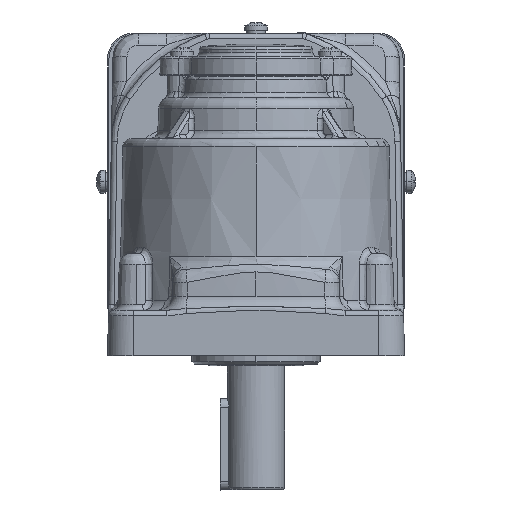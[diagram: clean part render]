
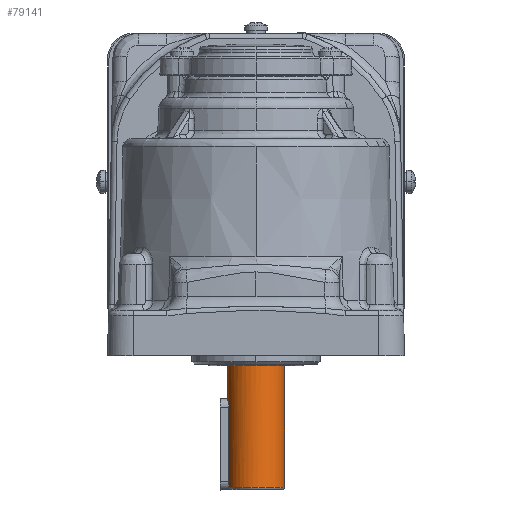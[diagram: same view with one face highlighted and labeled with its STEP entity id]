
A CAD part, left-side view. The second image highlights one B-rep face of the part: STEP entity #79141.
In plain terms, the highlighted cylindrical face has radius 10 mm (diameter 20 mm), a partial arc.
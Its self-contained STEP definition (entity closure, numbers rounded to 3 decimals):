
#127 = CARTESIAN_POINT ( 'NONE',  ( -32.918, 29.998, 88.008 ) ) ;
#409 = VERTEX_POINT ( 'NONE', #50224 ) ;
#710 = VERTEX_POINT ( 'NONE', #71326 ) ;
#2562 = EDGE_CURVE ( 'NONE', #66667, #77392, #69876, .T. ) ;
#3540 = CARTESIAN_POINT ( 'NONE',  ( -35.421, 29.569, 85.791 ) ) ;
#4294 = ORIENTED_EDGE ( 'NONE', *, *, #41762, .T. ) ;
#5435 = CARTESIAN_POINT ( 'NONE',  ( -35.444, 29.561, 85.698 ) ) ;
#5973 = DIRECTION ( 'NONE',  ( 0., 0., -1. ) ) ;
#7077 = CIRCLE ( 'NONE', #23736, 10. ) ;
#7567 = CARTESIAN_POINT ( 'NONE',  ( -32.523, 19.998, 57.008 ) ) ;
#8867 = LINE ( 'NONE', #44892, #22500 ) ;
#9631 = CARTESIAN_POINT ( 'NONE',  ( -32.523, 29.998, 88.008 ) ) ;
#9964 = CARTESIAN_POINT ( 'NONE',  ( -32.523, 19.998, 99.508 ) ) ;
#10414 = CARTESIAN_POINT ( 'NONE',  ( -35.33, 29.596, 86.07 ) ) ;
#10541 = VERTEX_POINT ( 'NONE', #13603 ) ;
#10678 = EDGE_LOOP ( 'NONE', ( #64507, #63454, #75307, #4294, #48025, #22845, #47662 ) ) ;
#13603 = CARTESIAN_POINT ( 'NONE',  ( -35.523, 29.537, 57.008 ) ) ;
#16487 = CARTESIAN_POINT ( 'NONE',  ( -34.779, 29.74, 86.988 ) ) ;
#17979 = CARTESIAN_POINT ( 'NONE',  ( -35.503, 29.543, 85.405 ) ) ;
#21726 = EDGE_CURVE ( 'NONE', #710, #70010, #29429, .T. ) ;
#22500 = VECTOR ( 'NONE', #63145, 1000. ) ;
#22556 = CARTESIAN_POINT ( 'NONE',  ( -35.217, 29.628, 86.343 ) ) ;
#22845 = ORIENTED_EDGE ( 'NONE', *, *, #46422, .T. ) ;
#23736 = AXIS2_PLACEMENT_3D ( 'NONE', #7567, #56549, #32287 ) ;
#27840 = CARTESIAN_POINT ( 'NONE',  ( -35.523, 29.537, 85.008 ) ) ;
#28184 = DIRECTION ( 'NONE',  ( 0., -1., 0. ) ) ;
#28228 = CARTESIAN_POINT ( 'NONE',  ( -35.523, 29.537, 85.208 ) ) ;
#29429 = B_SPLINE_CURVE_WITH_KNOTS ( 'NONE', 3,
 ( #9631, #127, #67397, #53318, #77663, #43064, #16487, #46441, #78064, #71193, #22556, #10414, #58992, #3540, #5435, #17979, #28228, #54818 ),
 .UNSPECIFIED., .F., .F.,
 ( 4, 2, 2, 2, 2, 2, 2, 2, 4 ),
 ( 0., 0.25, 0.5, 0.563, 0.625, 0.75, 0.813, 0.875, 1. ),
 .UNSPECIFIED. ) ;
#29493 = LINE ( 'NONE', #64756, #44845 ) ;
#30238 = CARTESIAN_POINT ( 'NONE',  ( -35.523, 29.537, 59.008 ) ) ;
#32287 = DIRECTION ( 'NONE',  ( 0., -1., 0. ) ) ;
#36218 = AXIS2_PLACEMENT_3D ( 'NONE', #9964, #78015, #28184 ) ;
#39640 = CARTESIAN_POINT ( 'NONE',  ( -32.523, 29.998, 99.508 ) ) ;
#39893 = CARTESIAN_POINT ( 'NONE',  ( -32.523, 19.998, 188.508 ) ) ;
#41762 = EDGE_CURVE ( 'NONE', #54427, #10541, #72123, .T. ) ;
#43064 = CARTESIAN_POINT ( 'NONE',  ( -34.714, 29.755, 87.06 ) ) ;
#44845 = VECTOR ( 'NONE', #52965, 1000. ) ;
#44892 = CARTESIAN_POINT ( 'NONE',  ( -32.523, 29.998, 188.508 ) ) ;
#46422 = EDGE_CURVE ( 'NONE', #409, #77392, #29493, .T. ) ;
#46441 = CARTESIAN_POINT ( 'NONE',  ( -34.902, 29.711, 86.838 ) ) ;
#47662 = ORIENTED_EDGE ( 'NONE', *, *, #2562, .F. ) ;
#48025 = ORIENTED_EDGE ( 'NONE', *, *, #66950, .T. ) ;
#50224 = CARTESIAN_POINT ( 'NONE',  ( -32.523, 9.998, 57.008 ) ) ;
#52429 = FACE_OUTER_BOUND ( 'NONE', #10678, .T. ) ;
#52555 = AXIS2_PLACEMENT_3D ( 'NONE', #39893, #71912, #77179 ) ;
#52965 = DIRECTION ( 'NONE',  ( 0., 0., 1. ) ) ;
#53318 = CARTESIAN_POINT ( 'NONE',  ( -34.037, 29.889, 87.628 ) ) ;
#53846 = CARTESIAN_POINT ( 'NONE',  ( -35.523, 29.537, 188.508 ) ) ;
#54427 = VERTEX_POINT ( 'NONE', #30238 ) ;
#54818 = CARTESIAN_POINT ( 'NONE',  ( -35.523, 29.537, 85.008 ) ) ;
#56549 = DIRECTION ( 'NONE',  ( 0., 0., 1. ) ) ;
#57381 = EDGE_CURVE ( 'NONE', #70010, #54427, #74028, .T. ) ;
#58992 = CARTESIAN_POINT ( 'NONE',  ( -35.364, 29.586, 85.978 ) ) ;
#59937 = CARTESIAN_POINT ( 'NONE',  ( -35.523, 29.537, 188.508 ) ) ;
#60100 = CARTESIAN_POINT ( 'NONE',  ( -32.523, 9.998, 99.508 ) ) ;
#63145 = DIRECTION ( 'NONE',  ( 0., 0., 1. ) ) ;
#63454 = ORIENTED_EDGE ( 'NONE', *, *, #21726, .T. ) ;
#64507 = ORIENTED_EDGE ( 'NONE', *, *, #66577, .F. ) ;
#64756 = CARTESIAN_POINT ( 'NONE',  ( -32.523, 9.998, 188.508 ) ) ;
#66577 = EDGE_CURVE ( 'NONE', #710, #66667, #8867, .T. ) ;
#66667 = VERTEX_POINT ( 'NONE', #39640 ) ;
#66950 = EDGE_CURVE ( 'NONE', #10541, #409, #7077, .T. ) ;
#67397 = CARTESIAN_POINT ( 'NONE',  ( -33.312, 29.973, 87.929 ) ) ;
#69876 = CIRCLE ( 'NONE', #36218, 10. ) ;
#70010 = VERTEX_POINT ( 'NONE', #27840 ) ;
#70718 = CYLINDRICAL_SURFACE ( 'NONE', #52555, 10. ) ;
#71193 = CARTESIAN_POINT ( 'NONE',  ( -35.125, 29.654, 86.515 ) ) ;
#71326 = CARTESIAN_POINT ( 'NONE',  ( -32.523, 29.998, 88.008 ) ) ;
#71912 = DIRECTION ( 'NONE',  ( 0., 0., 1. ) ) ;
#72123 = LINE ( 'NONE', #53846, #75376 ) ;
#74028 = LINE ( 'NONE', #59937, #75278 ) ;
#75278 = VECTOR ( 'NONE', #5973, 1000. ) ;
#75307 = ORIENTED_EDGE ( 'NONE', *, *, #57381, .T. ) ;
#75376 = VECTOR ( 'NONE', #77380, 1000. ) ;
#77179 = DIRECTION ( 'NONE',  ( 0., -1., 0. ) ) ;
#77380 = DIRECTION ( 'NONE',  ( 0., 0., -1. ) ) ;
#77392 = VERTEX_POINT ( 'NONE', #60100 ) ;
#77663 = CARTESIAN_POINT ( 'NONE',  ( -34.368, 29.83, 87.406 ) ) ;
#78015 = DIRECTION ( 'NONE',  ( 0., 0., 1. ) ) ;
#78064 = CARTESIAN_POINT ( 'NONE',  ( -34.96, 29.696, 86.761 ) ) ;
#79141 = ADVANCED_FACE ( 'NONE', ( #52429 ), #70718, .T. ) ;
